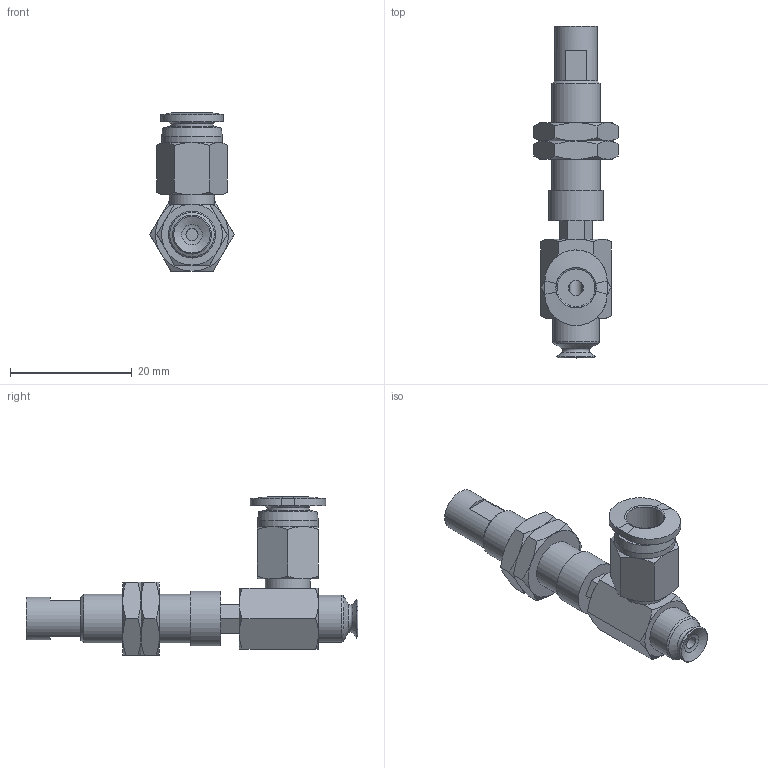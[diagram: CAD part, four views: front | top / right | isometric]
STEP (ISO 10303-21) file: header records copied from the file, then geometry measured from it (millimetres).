
FILE_DESCRIPTION(('STEP AP203'),'1');
FILE_NAME('-O.stp','2025-04-10T02:53:12',(' '),(' '),'Spatial InterOp 3D',' ',' ');
FILE_SCHEMA(('CONFIG_CONTROL_DESIGN'));
Length unit declared in the file: millimetre
Products named in the file (7): BNABPFYH-6A-3-※-O; CONNECTOR-H-6A-3; Nut-6A-3-h; NAPFTH-6A-3-FBODY; NAPFTH-6A-3-MBODY; BPFG-6A-※; PC-C_06-M5
Assembly tree (7 placements, depth 2):
  BNABPFYH-6A-3-※-O
    CONNECTOR-H-6A-3
    Nut-6A-3-h  x2
    NAPFTH-6A-3-FBODY
    NAPFTH-6A-3-MBODY
    BPFG-6A-※
    PC-C_06-M5
Bounding box: 13.86 x 54.5 x 25.98 mm (x, y, z)
Volume: 3250.4 mm3; surface area: 5032.8 mm2
Topology: 6 solids, 9 shells, 189 faces, 402 edges, 244 vertices
Faces by surface type: plane 79, cone 67, cylinder 24, torus 11, bspline 5, revolution 3
Full cylindrical faces by diameter (mm): 2 x2, 4 x4, 4.134 x2, 5 x2, 6 x2, 7 x2, 7.188 x2, 7.4 x1, 7.7 x1, 8 x1, 8.2 x1, 9 x1, 10 x1
Entity records: 4959 total; most frequent: CARTESIAN_POINT 1398, DIRECTION 659, ORIENTED_EDGE 584, EDGE_CURVE 294, AXIS2_PLACEMENT_3D 281, EDGE_LOOP 242, VERTEX_POINT 206, FACE_OUTER_BOUND 139
